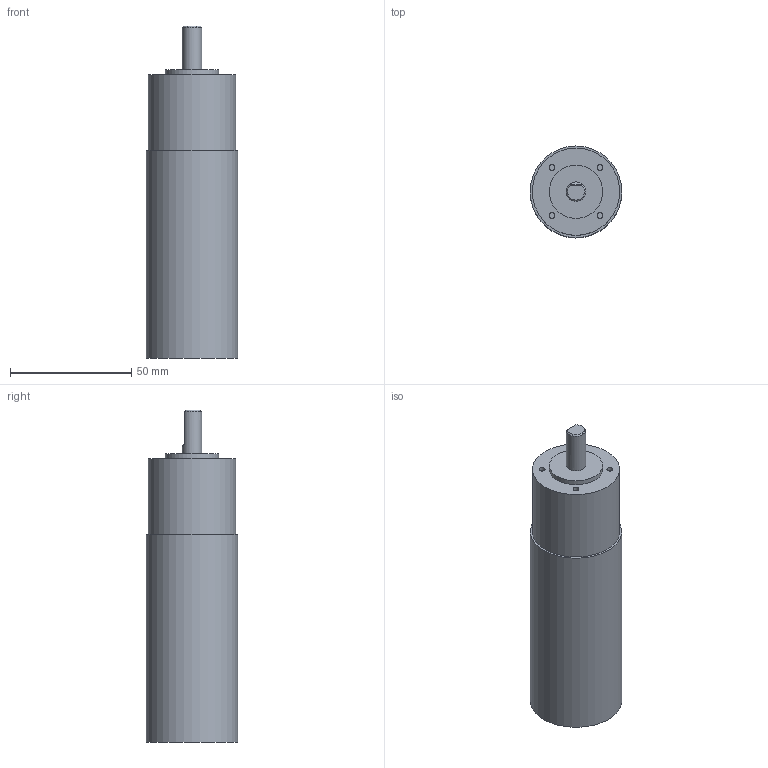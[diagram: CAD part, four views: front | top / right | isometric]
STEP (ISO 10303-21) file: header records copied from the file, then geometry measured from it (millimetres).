
FILE_DESCRIPTION(/* description */ ('Alibre Inc.'),/* implementation_level */ '2;1');
FILE_NAME(/* name */ 'export0',/* time_stamp */ '2013-08-02T10:07:23-06:00',/* author */ (''),/* organization */ (''),/* preprocessor_version */ 'ST-DEVELOPER v14',/* originating_system */ 'Alibre',/* authorisation */ '');
FILE_SCHEMA (('ALIBRE_SCHEMA','CONFIG_CONTROL_DESIGN'));
Length unit declared in the file: centimetre
Products named in the file (1): ID_1
Bounding box: 37.8 x 37.8 x 136.9 mm (x, y, z)
Volume: 129414.6 mm3; surface area: 16676.8 mm2
Topology: 1 solids, 1 shells, 21 faces, 34 edges, 22 vertices
Faces by surface type: plane 12, cylinder 8, cone 1
Full cylindrical faces by diameter (mm): 2.459 x4, 8 x1, 22 x1, 36 x1, 37.8 x1
Entity records: 1325 total; most frequent: CARTESIAN_POINT 157, DIRECTION 92, AXIS2_PLACEMENT_3D 51, PERSISTANTTOPOLOGYATTRIBUTE 50, ORIENTED_EDGE 50, REFERENCEDEPENDENTUV 44, ENTITYHEADERPROPERTIES 37, EDGE_LOOP 36
